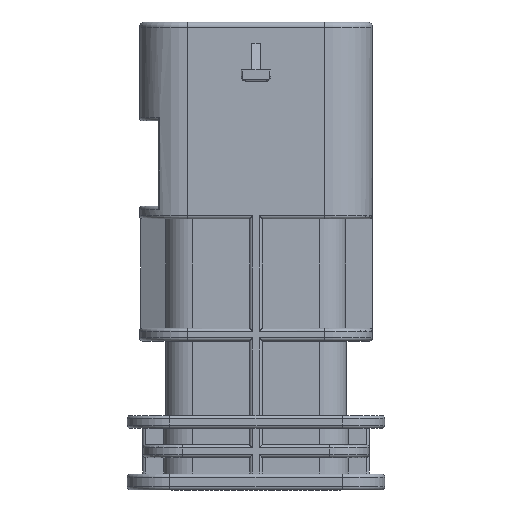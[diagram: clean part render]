
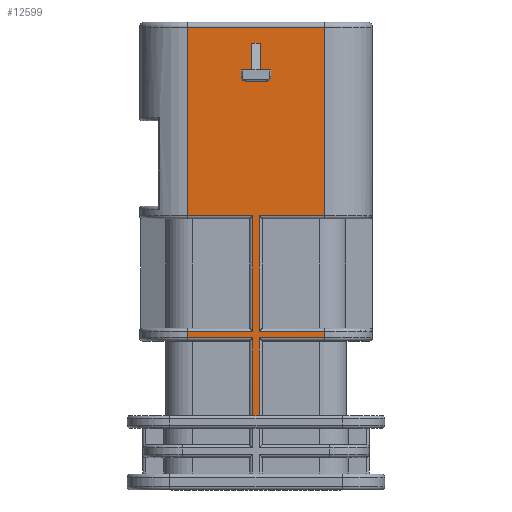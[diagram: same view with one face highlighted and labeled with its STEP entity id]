
A CAD part, front view. The second image highlights one B-rep face of the part: STEP entity #12599.
In plain terms, the highlighted planar face has unit normal (0, -1, 0).
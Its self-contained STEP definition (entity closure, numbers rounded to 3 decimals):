
#2601=CARTESIAN_POINT('',(0.3,-4.95,-29.7));
#2651=DIRECTION('',(1.,0.,0.));
#2652=VECTOR('',#2651,2.);
#2653=CARTESIAN_POINT('',(-1.,-4.95,-5.479));
#2654=LINE('',#2653,#2652);
#2655=DIRECTION('',(0.,0.,-1.));
#2656=VECTOR('',#2655,0.579);
#2657=CARTESIAN_POINT('',(1.4,-4.95,-4.5));
#2658=LINE('',#2657,#2656);
#2659=DIRECTION('',(1.,0.,0.));
#2660=VECTOR('',#2659,1.);
#2661=CARTESIAN_POINT('',(0.4,-4.95,-4.5));
#2662=LINE('',#2661,#2660);
#2663=DIRECTION('',(0.,0.,-1.));
#2664=VECTOR('',#2663,2.511);
#2665=CARTESIAN_POINT('',(0.4,-4.95,-1.989));
#2666=LINE('',#2665,#2664);
#2667=DIRECTION('',(1.,0.,0.));
#2668=VECTOR('',#2667,0.8);
#2669=CARTESIAN_POINT('',(-0.4,-4.95,-1.989));
#2670=LINE('',#2669,#2668);
#2671=DIRECTION('',(0.,0.,1.));
#2672=VECTOR('',#2671,2.511);
#2673=CARTESIAN_POINT('',(-0.4,-4.95,-4.5));
#2674=LINE('',#2673,#2672);
#2675=DIRECTION('',(1.,0.,0.));
#2676=VECTOR('',#2675,1.);
#2677=CARTESIAN_POINT('',(-1.4,-4.95,-4.5));
#2678=LINE('',#2677,#2676);
#2679=DIRECTION('',(0.,0.,-1.));
#2680=VECTOR('',#2679,0.579);
#2681=CARTESIAN_POINT('',(-1.4,-4.95,-4.5));
#2682=LINE('',#2681,#2680);
#2683=DIRECTION('',(-1.,0.,0.));
#2684=VECTOR('',#2683,6.15);
#2685=CARTESIAN_POINT('',(-0.3,-4.95,-29.1));
#2686=LINE('',#2685,#2684);
#2687=DIRECTION('',(0.,0.,-1.));
#2688=VECTOR('',#2687,10.9);
#2689=CARTESIAN_POINT('',(-0.3,-4.95,-18.2));
#2690=LINE('',#2689,#2688);
#2691=DIRECTION('',(1.,0.,0.));
#2692=VECTOR('',#2691,6.15);
#2693=CARTESIAN_POINT('',(-6.45,-4.95,-18.2));
#2694=LINE('',#2693,#2692);
#2695=DIRECTION('',(0.,0.,-1.));
#2696=VECTOR('',#2695,17.7);
#2697=CARTESIAN_POINT('',(-6.45,-4.95,-0.5));
#2698=LINE('',#2697,#2696);
#2699=DIRECTION('',(1.,0.,0.));
#2700=VECTOR('',#2699,12.9);
#2701=CARTESIAN_POINT('',(-6.45,-4.95,-0.5));
#2702=LINE('',#2701,#2700);
#2703=DIRECTION('',(1.,0.,0.));
#2704=VECTOR('',#2703,6.15);
#2705=CARTESIAN_POINT('',(0.3,-4.95,-18.2));
#2706=LINE('',#2705,#2704);
#2707=DIRECTION('',(0.,0.,1.));
#2708=VECTOR('',#2707,10.9);
#2709=CARTESIAN_POINT('',(0.3,-4.95,-29.1));
#2710=LINE('',#2709,#2708);
#2711=DIRECTION('',(-1.,0.,0.));
#2712=VECTOR('',#2711,6.15);
#2713=CARTESIAN_POINT('',(6.45,-4.95,-29.1));
#2714=LINE('',#2713,#2712);
#2715=DIRECTION('',(-1.,0.,0.));
#2716=VECTOR('',#2715,6.15);
#2717=CARTESIAN_POINT('',(6.45,-4.95,-29.7));
#2718=LINE('',#2717,#2716);
#2719=DIRECTION('',(0.,0.,1.));
#2720=VECTOR('',#2719,7.3);
#2721=CARTESIAN_POINT('',(0.3,-4.95,-37.));
#2722=LINE('',#2721,#2720);
#2723=DIRECTION('',(1.,0.,0.));
#2724=VECTOR('',#2723,0.6);
#2725=CARTESIAN_POINT('',(-0.3,-4.95,-37.));
#2726=LINE('',#2725,#2724);
#2727=DIRECTION('',(0.,0.,1.));
#2728=VECTOR('',#2727,7.3);
#2729=CARTESIAN_POINT('',(-0.3,-4.95,-37.));
#2730=LINE('',#2729,#2728);
#2731=DIRECTION('',(-1.,0.,0.));
#2732=VECTOR('',#2731,6.15);
#2733=CARTESIAN_POINT('',(-0.3,-4.95,-29.7));
#2734=LINE('',#2733,#2732);
#2735=DIRECTION('',(0.,0.,-1.));
#2736=VECTOR('',#2735,0.6);
#2737=CARTESIAN_POINT('',(-6.45,-4.95,-29.1));
#2738=LINE('',#2737,#2736);
#2751=CARTESIAN_POINT('',(1.4,-4.95,-5.079));
#2752=CARTESIAN_POINT('',(1.4,-4.95,-5.212));
#2753=CARTESIAN_POINT('',(1.299,-4.95,-5.378));
#2754=CARTESIAN_POINT('',(1.133,-4.95,-5.479));
#2755=CARTESIAN_POINT('',(1.,-4.95,-5.479));
#2790=CARTESIAN_POINT('',(-1.,-4.95,-5.479));
#2791=CARTESIAN_POINT('',(-1.133,-4.95,-5.479));
#2792=CARTESIAN_POINT('',(-1.299,-4.95,-5.378));
#2793=CARTESIAN_POINT('',(-1.4,-4.95,-5.212));
#2794=CARTESIAN_POINT('',(-1.4,-4.95,-5.079));
#6465=DIRECTION('',(0.,0.,-1.));
#6466=VECTOR('',#6465,17.7);
#6467=CARTESIAN_POINT('',(6.45,-4.95,-0.5));
#6468=LINE('',#6467,#6466);
#6479=DIRECTION('',(0.,0.,-1.));
#6480=VECTOR('',#6479,0.6);
#6481=CARTESIAN_POINT('',(6.45,-4.95,-29.1));
#6482=LINE('',#6481,#6480);
#7296=CARTESIAN_POINT('',(0.4,-4.95,-1.989));
#7298=VERTEX_POINT('',#7296);
#7300=CARTESIAN_POINT('',(-0.4,-4.95,-1.989));
#7302=VERTEX_POINT('',#7300);
#7304=CARTESIAN_POINT('',(0.4,-4.95,-4.5));
#7305=CARTESIAN_POINT('',(1.4,-4.95,-4.5));
#7306=VERTEX_POINT('',#7304);
#7307=VERTEX_POINT('',#7305);
#7308=CARTESIAN_POINT('',(-1.4,-4.95,-4.5));
#7309=CARTESIAN_POINT('',(-0.4,-4.95,-4.5));
#7310=VERTEX_POINT('',#7308);
#7311=VERTEX_POINT('',#7309);
#7420=CARTESIAN_POINT('',(1.,-4.95,-5.479));
#7421=VERTEX_POINT('',#7420);
#7422=CARTESIAN_POINT('',(1.4,-4.95,-5.079));
#7423=VERTEX_POINT('',#7422);
#7426=CARTESIAN_POINT('',(-1.4,-4.95,-5.079));
#7427=VERTEX_POINT('',#7426);
#7428=CARTESIAN_POINT('',(-1.,-4.95,-5.479));
#7429=VERTEX_POINT('',#7428);
#7472=CARTESIAN_POINT('',(-6.45,-4.95,-0.5));
#7473=VERTEX_POINT('',#7472);
#7476=CARTESIAN_POINT('',(6.45,-4.95,-0.5));
#7477=VERTEX_POINT('',#7476);
#7912=CARTESIAN_POINT('',(0.3,-4.95,-37.));
#7914=VERTEX_POINT('',#7912);
#7916=VERTEX_POINT('',#2601);
#8184=CARTESIAN_POINT('',(-6.45,-4.95,-29.1));
#8185=VERTEX_POINT('',#8184);
#8188=CARTESIAN_POINT('',(-0.3,-4.95,-29.1));
#8189=VERTEX_POINT('',#8188);
#8196=CARTESIAN_POINT('',(0.3,-4.95,-18.2));
#8197=CARTESIAN_POINT('',(6.45,-4.95,-18.2));
#8198=VERTEX_POINT('',#8196);
#8199=VERTEX_POINT('',#8197);
#8201=CARTESIAN_POINT('',(-6.45,-4.95,-18.2));
#8203=VERTEX_POINT('',#8201);
#8220=CARTESIAN_POINT('',(-0.3,-4.95,-18.2));
#8221=VERTEX_POINT('',#8220);
#8334=CARTESIAN_POINT('',(6.45,-4.95,-29.7));
#8335=VERTEX_POINT('',#8334);
#8502=CARTESIAN_POINT('',(6.45,-4.95,-29.1));
#8503=CARTESIAN_POINT('',(0.3,-4.95,-29.1));
#8504=VERTEX_POINT('',#8502);
#8505=VERTEX_POINT('',#8503);
#8514=CARTESIAN_POINT('',(-6.45,-4.95,-29.7));
#8515=VERTEX_POINT('',#8514);
#8540=CARTESIAN_POINT('',(-0.3,-4.95,-37.));
#8541=CARTESIAN_POINT('',(-0.3,-4.95,-29.7));
#8542=VERTEX_POINT('',#8540);
#8543=VERTEX_POINT('',#8541);
#12542=CARTESIAN_POINT('',(-6.45,-4.95,0.));
#12543=DIRECTION('',(0.,-1.,0.));
#12544=DIRECTION('',(1.,0.,0.));
#12545=AXIS2_PLACEMENT_3D('',#12542,#12543,#12544);
#12546=PLANE('',#12545);
#12548=ORIENTED_EDGE('',*,*,#12547,.F.);
#12550=ORIENTED_EDGE('',*,*,#12549,.F.);
#12552=ORIENTED_EDGE('',*,*,#12551,.F.);
#12554=ORIENTED_EDGE('',*,*,#12553,.F.);
#12555=ORIENTED_EDGE('',*,*,#12321,.T.);
#12557=ORIENTED_EDGE('',*,*,#12556,.T.);
#12559=ORIENTED_EDGE('',*,*,#12558,.F.);
#12561=ORIENTED_EDGE('',*,*,#12560,.F.);
#12563=ORIENTED_EDGE('',*,*,#12562,.F.);
#12565=ORIENTED_EDGE('',*,*,#12564,.T.);
#12566=ORIENTED_EDGE('',*,*,#12468,.T.);
#12567=ORIENTED_EDGE('',*,*,#12483,.F.);
#12568=ORIENTED_EDGE('',*,*,#12496,.F.);
#12570=ORIENTED_EDGE('',*,*,#12569,.T.);
#12572=ORIENTED_EDGE('',*,*,#12571,.T.);
#12574=ORIENTED_EDGE('',*,*,#12573,.F.);
#12575=EDGE_LOOP('',(#12548,#12550,#12552,#12554,#12555,#12557,#12559,#12561,
#12563,#12565,#12566,#12567,#12568,#12570,#12572,#12574));
#12576=FACE_OUTER_BOUND('',#12575,.F.);
#12578=ORIENTED_EDGE('',*,*,#12577,.T.);
#12580=ORIENTED_EDGE('',*,*,#12579,.F.);
#12582=ORIENTED_EDGE('',*,*,#12581,.F.);
#12584=ORIENTED_EDGE('',*,*,#12583,.F.);
#12586=ORIENTED_EDGE('',*,*,#12585,.F.);
#12588=ORIENTED_EDGE('',*,*,#12587,.F.);
#12590=ORIENTED_EDGE('',*,*,#12589,.F.);
#12592=ORIENTED_EDGE('',*,*,#12591,.F.);
#12594=ORIENTED_EDGE('',*,*,#12593,.T.);
#12596=ORIENTED_EDGE('',*,*,#12595,.F.);
#12597=EDGE_LOOP('',(#12578,#12580,#12582,#12584,#12586,#12588,#12590,#12592,
#12594,#12596));
#12598=FACE_BOUND('',#12597,.F.);
#12599=ADVANCED_FACE('',(#12576,#12598),#12546,.T.);
#2756=B_SPLINE_CURVE_WITH_KNOTS('',3,(#2751,#2752,#2753,#2754,#2755),
.UNSPECIFIED.,.F.,.F.,(4,1,4),(0.,0.5,1.),.UNSPECIFIED.);
#2795=B_SPLINE_CURVE_WITH_KNOTS('',3,(#2790,#2791,#2792,#2793,#2794),
.UNSPECIFIED.,.F.,.F.,(4,1,4),(0.,0.5,1.),.UNSPECIFIED.);
#12321=EDGE_CURVE('',#7473,#7477,#2702,.T.);
#12468=EDGE_CURVE('',#8335,#7916,#2718,.T.);
#12483=EDGE_CURVE('',#7914,#7916,#2722,.T.);
#12496=EDGE_CURVE('',#8542,#7914,#2726,.T.);
#12547=EDGE_CURVE('',#8189,#8185,#2686,.T.);
#12549=EDGE_CURVE('',#8221,#8189,#2690,.T.);
#12551=EDGE_CURVE('',#8203,#8221,#2694,.T.);
#12553=EDGE_CURVE('',#7473,#8203,#2698,.T.);
#12556=EDGE_CURVE('',#7477,#8199,#6468,.T.);
#12558=EDGE_CURVE('',#8198,#8199,#2706,.T.);
#12560=EDGE_CURVE('',#8505,#8198,#2710,.T.);
#12562=EDGE_CURVE('',#8504,#8505,#2714,.T.);
#12564=EDGE_CURVE('',#8504,#8335,#6482,.T.);
#12569=EDGE_CURVE('',#8542,#8543,#2730,.T.);
#12571=EDGE_CURVE('',#8543,#8515,#2734,.T.);
#12573=EDGE_CURVE('',#8185,#8515,#2738,.T.);
#12577=EDGE_CURVE('',#7429,#7421,#2654,.T.);
#12579=EDGE_CURVE('',#7423,#7421,#2756,.T.);
#12581=EDGE_CURVE('',#7307,#7423,#2658,.T.);
#12583=EDGE_CURVE('',#7306,#7307,#2662,.T.);
#12585=EDGE_CURVE('',#7298,#7306,#2666,.T.);
#12587=EDGE_CURVE('',#7302,#7298,#2670,.T.);
#12589=EDGE_CURVE('',#7311,#7302,#2674,.T.);
#12591=EDGE_CURVE('',#7310,#7311,#2678,.T.);
#12593=EDGE_CURVE('',#7310,#7427,#2682,.T.);
#12595=EDGE_CURVE('',#7429,#7427,#2795,.T.);
